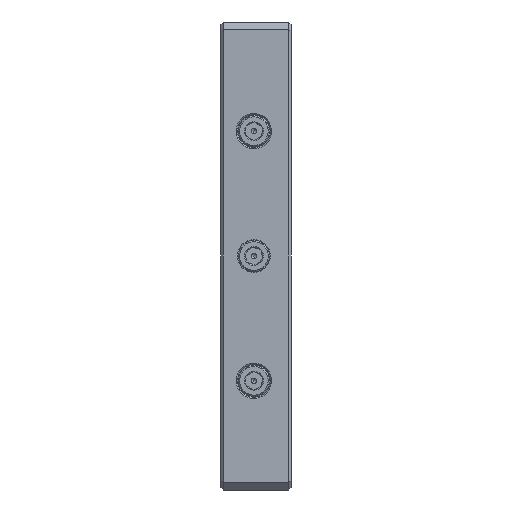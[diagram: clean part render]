
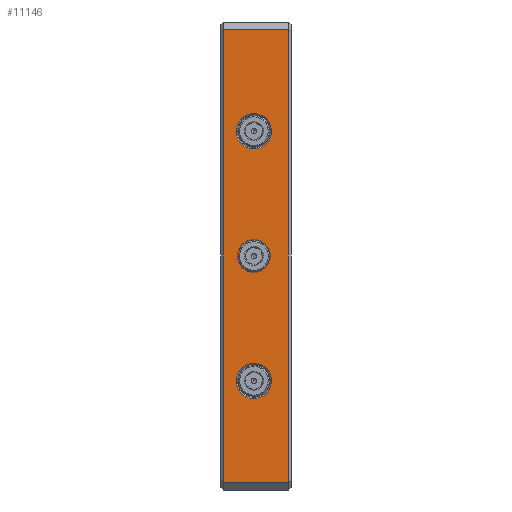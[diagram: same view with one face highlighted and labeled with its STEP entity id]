
A CAD part, left-side view. The second image highlights one B-rep face of the part: STEP entity #11146.
In plain terms, the highlighted planar face has unit normal (-1, 0, 0).
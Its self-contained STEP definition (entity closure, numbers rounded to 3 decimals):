
#2493=DIRECTION('',(0.,0.,1.));
#2494=VECTOR('',#2493,174.);
#2495=CARTESIAN_POINT('',(-165.,26.,-87.));
#2496=LINE('',#2495,#2494);
#2869=DIRECTION('',(0.,0.,-1.));
#2870=VECTOR('',#2869,174.);
#2871=CARTESIAN_POINT('',(-165.,1.,87.));
#2872=LINE('',#2871,#2870);
#2893=DIRECTION('',(0.,-1.,0.));
#2894=VECTOR('',#2893,25.);
#2895=CARTESIAN_POINT('',(-165.,26.,87.));
#2896=LINE('',#2895,#2894);
#2901=CARTESIAN_POINT('',(-165.,14.3,-48.));
#2902=DIRECTION('',(1.,0.,0.));
#2903=DIRECTION('',(0.,0.,1.));
#2904=AXIS2_PLACEMENT_3D('',#2901,#2902,#2903);
#2906=CARTESIAN_POINT('',(-165.,14.3,-48.));
#2907=DIRECTION('',(1.,0.,0.));
#2908=DIRECTION('',(0.,0.,-1.));
#2909=AXIS2_PLACEMENT_3D('',#2906,#2907,#2908);
#2911=CARTESIAN_POINT('',(-165.,14.3,48.));
#2912=DIRECTION('',(1.,0.,0.));
#2913=DIRECTION('',(0.,0.,1.));
#2914=AXIS2_PLACEMENT_3D('',#2911,#2912,#2913);
#2916=CARTESIAN_POINT('',(-165.,14.3,48.));
#2917=DIRECTION('',(1.,0.,0.));
#2918=DIRECTION('',(0.,0.,-1.));
#2919=AXIS2_PLACEMENT_3D('',#2916,#2917,#2918);
#2921=CARTESIAN_POINT('',(-165.,14.3,0.));
#2922=DIRECTION('',(1.,0.,0.));
#2923=DIRECTION('',(0.,1.,0.));
#2924=AXIS2_PLACEMENT_3D('',#2921,#2922,#2923);
#2926=CARTESIAN_POINT('',(-165.,14.3,0.));
#2927=DIRECTION('',(1.,0.,0.));
#2928=DIRECTION('',(0.,-1.,0.));
#2929=AXIS2_PLACEMENT_3D('',#2926,#2927,#2928);
#2935=DIRECTION('',(0.,1.,0.));
#2936=VECTOR('',#2935,25.);
#2937=CARTESIAN_POINT('',(-165.,1.,-87.));
#2938=LINE('',#2937,#2936);
#8200=CARTESIAN_POINT('',(-165.,1.,87.));
#8201=CARTESIAN_POINT('',(-165.,1.,-87.));
#8202=VERTEX_POINT('',#8200);
#8203=VERTEX_POINT('',#8201);
#8236=CARTESIAN_POINT('',(-165.,26.,87.));
#8238=VERTEX_POINT('',#8236);
#8500=CARTESIAN_POINT('',(-165.,8.3,0.));
#8501=CARTESIAN_POINT('',(-165.,20.3,0.));
#8502=VERTEX_POINT('',#8500);
#8503=VERTEX_POINT('',#8501);
#8757=CARTESIAN_POINT('',(-165.,14.3,54.8));
#8758=CARTESIAN_POINT('',(-165.,14.3,41.2));
#8759=VERTEX_POINT('',#8757);
#8760=VERTEX_POINT('',#8758);
#9335=CARTESIAN_POINT('',(-165.,14.3,-41.2));
#9336=CARTESIAN_POINT('',(-165.,14.3,-54.8));
#9337=VERTEX_POINT('',#9335);
#9338=VERTEX_POINT('',#9336);
#9357=CARTESIAN_POINT('',(-165.,26.,-87.));
#9359=VERTEX_POINT('',#9357);
#11116=CARTESIAN_POINT('',(-165.,27.,90.));
#11117=DIRECTION('',(1.,0.,0.));
#11118=DIRECTION('',(0.,0.,-1.));
#11119=AXIS2_PLACEMENT_3D('',#11116,#11117,#11118);
#11120=PLANE('',#11119);
#11122=ORIENTED_EDGE('',*,*,#11121,.T.);
#11123=ORIENTED_EDGE('',*,*,#10488,.T.);
#11124=ORIENTED_EDGE('',*,*,#11107,.T.);
#11125=ORIENTED_EDGE('',*,*,#11071,.T.);
#11126=EDGE_LOOP('',(#11122,#11123,#11124,#11125));
#11127=FACE_OUTER_BOUND('',#11126,.F.);
#11129=ORIENTED_EDGE('',*,*,#11128,.F.);
#11131=ORIENTED_EDGE('',*,*,#11130,.F.);
#11132=EDGE_LOOP('',(#11129,#11131));
#11133=FACE_BOUND('',#11132,.F.);
#11135=ORIENTED_EDGE('',*,*,#11134,.F.);
#11137=ORIENTED_EDGE('',*,*,#11136,.F.);
#11138=EDGE_LOOP('',(#11135,#11137));
#11139=FACE_BOUND('',#11138,.F.);
#11141=ORIENTED_EDGE('',*,*,#11140,.F.);
#11143=ORIENTED_EDGE('',*,*,#11142,.F.);
#11144=EDGE_LOOP('',(#11141,#11143));
#11145=FACE_BOUND('',#11144,.F.);
#11146=ADVANCED_FACE('',(#11127,#11133,#11139,#11145),#11120,.F.);
#2905=CIRCLE('',#2904,6.8);
#2910=CIRCLE('',#2909,6.8);
#2915=CIRCLE('',#2914,6.8);
#2920=CIRCLE('',#2919,6.8);
#2925=CIRCLE('',#2924,6.);
#2930=CIRCLE('',#2929,6.);
#10488=EDGE_CURVE('',#9359,#8238,#2496,.T.);
#11071=EDGE_CURVE('',#8202,#8203,#2872,.T.);
#11107=EDGE_CURVE('',#8238,#8202,#2896,.T.);
#11121=EDGE_CURVE('',#8203,#9359,#2938,.T.);
#11128=EDGE_CURVE('',#9337,#9338,#2905,.T.);
#11130=EDGE_CURVE('',#9338,#9337,#2910,.T.);
#11134=EDGE_CURVE('',#8759,#8760,#2915,.T.);
#11136=EDGE_CURVE('',#8760,#8759,#2920,.T.);
#11140=EDGE_CURVE('',#8503,#8502,#2925,.T.);
#11142=EDGE_CURVE('',#8502,#8503,#2930,.T.);
